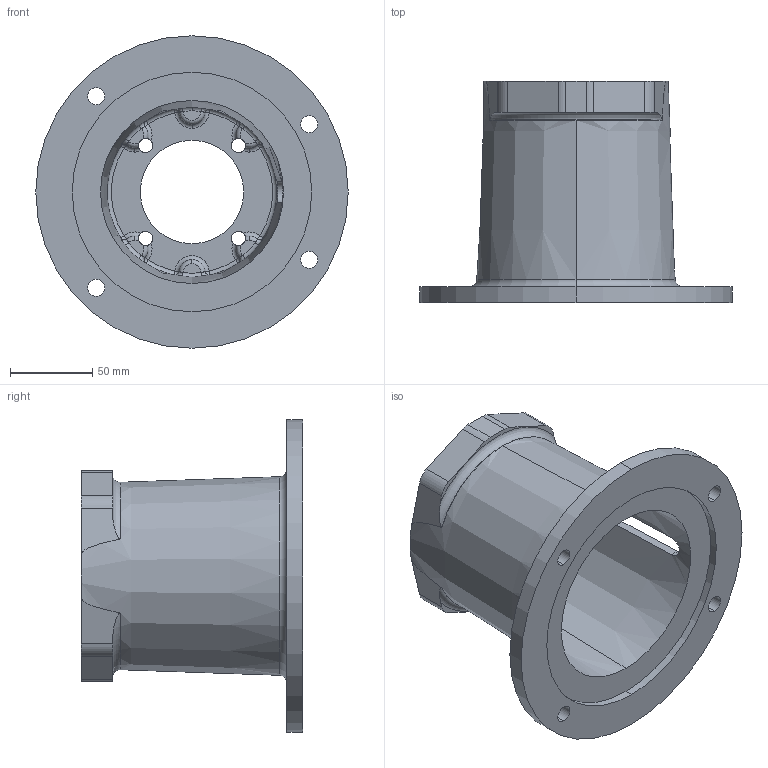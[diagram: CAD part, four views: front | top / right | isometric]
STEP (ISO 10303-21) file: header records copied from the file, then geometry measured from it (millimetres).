
FILE_DESCRIPTION (( 'STEP AP203' ), '1' );
FILE_NAME ('E5755063MS.STEP', '2014-11-03T15:37:12', ( '' ), ( '' ), 'SwSTEP 2.0', 'SolidWorks 2014', '' );
FILE_SCHEMA (( 'CONFIG_CONTROL_DESIGN' ));
Length unit declared in the file: inch
Products named in the file (1): E5755063MS
Bounding box: 190.5 x 134.87 x 190.5 mm (x, y, z)
Volume: 464981.8 mm3; surface area: 146776.6 mm2
Topology: 1 solids, 1 shells, 179 faces, 470 edges, 280 vertices
Faces by surface type: torus 60, cylinder 32, plane 25, sphere 24, bspline 24, cone 14
Entity records: 7375 total; most frequent: CARTESIAN_POINT 2986, DIRECTION 954, ORIENTED_EDGE 916, EDGE_CURVE 458, AXIS2_PLACEMENT_3D 444, CIRCLE 288, VERTEX_POINT 280, EDGE_LOOP 198
